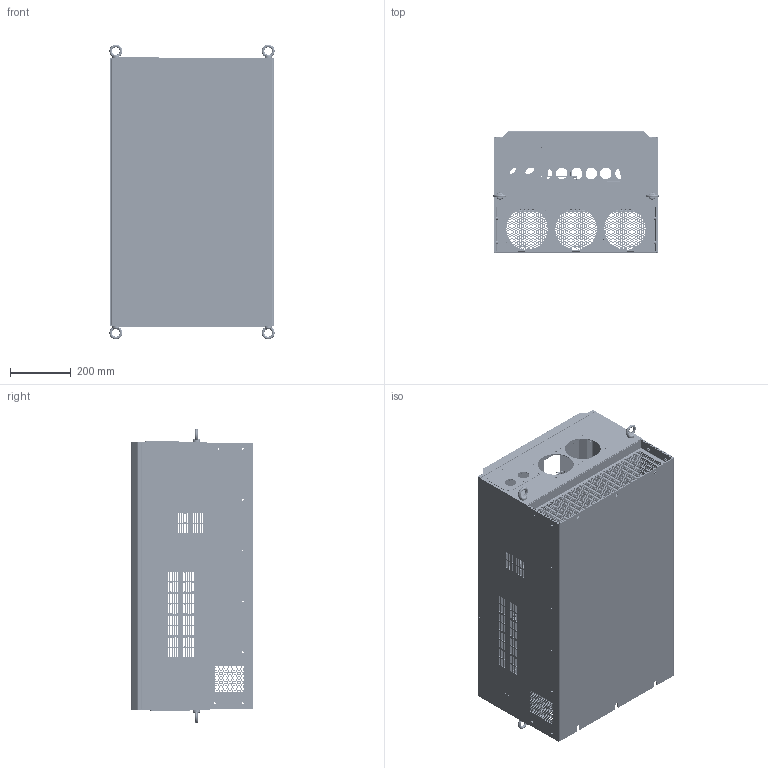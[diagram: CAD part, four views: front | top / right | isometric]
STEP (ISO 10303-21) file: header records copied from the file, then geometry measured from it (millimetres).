
FILE_DESCRIPTION((''),'2;1');
FILE_NAME('2999910089_ASM','2024-06-14T08:35:43',('dylvxj'),(''),'CREO PARAMETRIC BY PTC INC, 2020044','CREO PARAMETRIC BY PTC INC, 2020044','');
FILE_SCHEMA(('CONFIG_CONTROL_DESIGN','SHAPE_APPEARANCE_LAYERS_GROUPS'));
Products named in the file (72): 8ZTD_024_756; S-M6-2; S-M5-2; 8ZTD_024_756_ASM; 8ZTD_062_266; S_M4_2; FH-M4-15; 8ZTD_062_266_ASM; 8ZTD_043_757; 8ZTD_043_757_ASM; 8ZTD_043_758; SOO-M3-15; 8ZTD_043_758_ASM; 8ZTD_043_759; 8ZTD_043_759_ASM; 8ZTD_043_762; 8ZTD_043_762_ASM; 8ZTD_043_763; S-M3-2; 8ZTD_043_763_ASM; 8ZTD_043_760; S-M8-2; 8ZTD_043_760_ASM; 5022V1627_ASM; 8ZTD-048-089; 8ZTD_048_089_ASM; 8ZTD-325-220; 8ZTD_325_220_ASM; 8ZTD-325-221; 8ZTD_325_221_ASM; 8ZTD_048_090; 8ZTD_048_090_ASM; 8ZTD_048_087; 5005V1609; 8ZTD_355_035_4_ASM; 5005V1607; 8ZTD_355_035_2_ASM; 5005V1606; 8ZTD_355_035_1_ASM; 5005V1608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
Assembly tree (194 placements, depth 5):
  2999910089_ASM
    5022V1627_ASM
      8ZTD_024_756_ASM
        8ZTD_024_756
        S-M6-2  x6
        S-M5-2  x2
      8ZTD_062_266_ASM
        8ZTD_062_266
        S_M4_2  x2
        S-M6-2  x2
        FH-M4-15  x2
      8ZTD_043_757_ASM
        8ZTD_043_757
        S-M6-2  x4
      8ZTD_043_758_ASM
        8ZTD_043_758
        S_M4_2  x4
        SOO-M3-15  x4
      8ZTD_043_759_ASM
        8ZTD_043_759
        S-M6-2  x2
      8ZTD_043_762_ASM  x2
        8ZTD_043_762
        S-M6-2
      8ZTD_043_763_ASM
        8ZTD_043_763
        S-M3-2  x4
      8ZTD_043_760_ASM  x2
        8ZTD_043_760
        S-M8-2
    8ZTD_048_089_ASM
      8ZTD-048-089
      S_M4_2  x21
    8ZTD_325_220_ASM
      8ZTD-325-220
      S-M6-2  x4
    8ZTD_325_221_ASM
      8ZTD-325-221
      S-M6-2  x4
    8ZTD_048_090_ASM
      8ZTD_048_090
      SOO-M3-15  x4
    8ZTD_048_087
    5355V1625_ASM
      8ZTD_355_035__ASM
        8ZTD_355_035_4_ASM
          5005V1609
          S_M4_2  x4
        8ZTD_355_035_2_ASM
          5005V1607
          S_M4_2  x6
        8ZTD_355_035_1_ASM
          5005V1606
          S_M4_2  x10
        8ZTD_355_035_3_ASM
          5005V1608
          S_M4_2  x4
      8ZTD_130_097  x4
      8ZTD_946_110  x4
      GB_T_825  x4
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Bounding box: 546 x 400.6 x 973.59 mm (x, y, z)
Volume: 6408114.1 mm3; surface area: 7156281.1 mm2
Topology: 171 solids, 226 shells, 35171 faces, 101221 edges, 67160 vertices
Faces by surface type: plane 32606, cylinder 2415, bspline 108, torus 24, cone 18
Entity records: 732943 total; most frequent: CARTESIAN_POINT 141401, ORIENTED_EDGE 122994, DIRECTION 106630, EDGE_CURVE 61499, VECTOR 58326, LINE 58326, VERTEX_POINT 40736, EDGE_LOOP 27865
